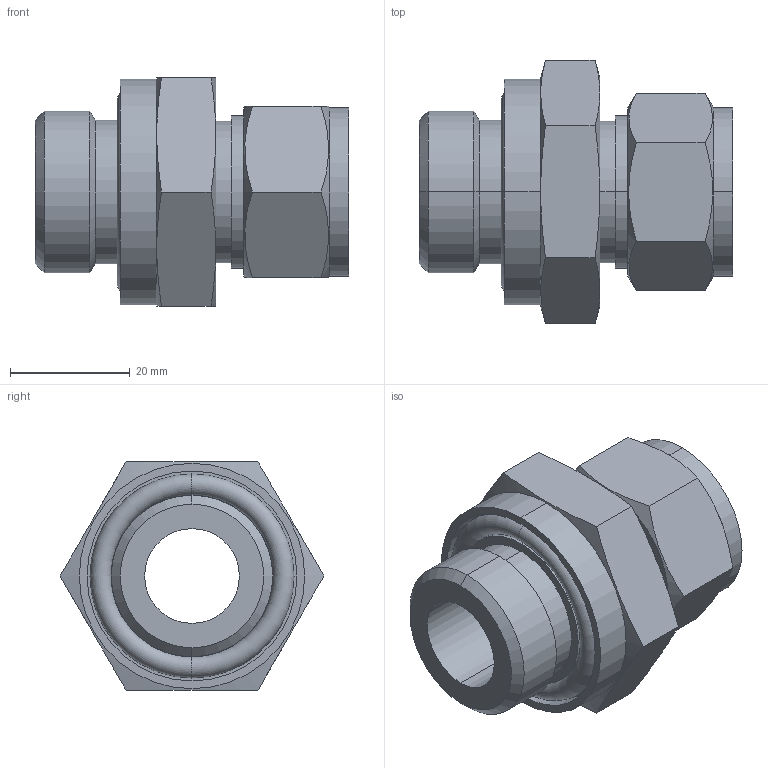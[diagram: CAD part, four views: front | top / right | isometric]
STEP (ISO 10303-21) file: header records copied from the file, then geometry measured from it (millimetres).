
FILE_DESCRIPTION (( 'STEP AP203' ), '1' );
FILE_NAME ('DCO12-12 SS.STEP', '2009-10-08T08:02:02', ( ' ' ), ( '' ), 'SwSTEP 2.0', 'SolidWorks 2008', '' );
FILE_SCHEMA (( 'CONFIG_CONTROL_DESIGN' ));
Length unit declared in the file: millimetre
Products named in the file (1): DCO12-12 SS
Bounding box: 52.3 x 43.99 x 38.1 mm (x, y, z)
Volume: 28061.7 mm3; surface area: 12341.5 mm2
Topology: 2 solids, 2 shells, 61 faces, 136 edges, 84 vertices
Faces by surface type: plane 21, cylinder 20, cone 16, torus 4
Entity records: 1947 total; most frequent: CARTESIAN_POINT 530, DIRECTION 282, ORIENTED_EDGE 272, EDGE_CURVE 136, AXIS2_PLACEMENT_3D 120, VERTEX_POINT 84, EDGE_LOOP 70, ADVANCED_FACE 61
